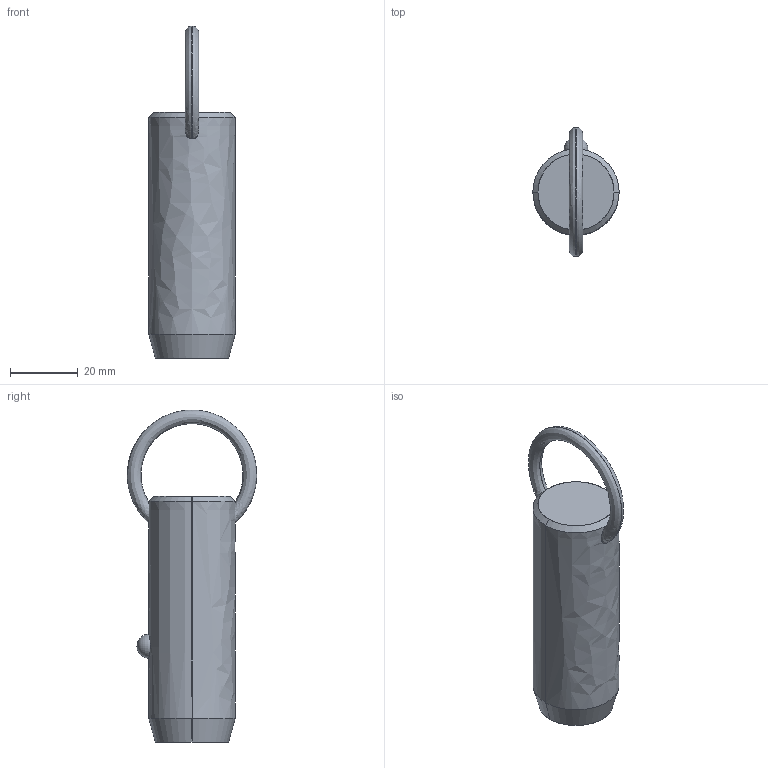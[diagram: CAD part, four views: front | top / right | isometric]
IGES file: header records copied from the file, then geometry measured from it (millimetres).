
Start section: SolidWorks IGES file using analytic representation for surfaces
Global section: file name: C:\Users\liam_\OneDrive\Documents\WORK\Work for WixRoyd\Job Files\J-00019 - Matt Davis CAD Checking\04. CAD Drawings\automotion20190605\P1250.2_v2\P1250.2_v2_20190729_IGES\P1250.100-110.igs; native system: SolidWorks 2017; preprocessor: SolidWorks 2017; author: liam_; date: 190730.173253; units: millimetre
Bounding box: 25.4 x 38.08 x 97.7 mm (x, y, z)
Surface area: 7542.6 mm2 (no closed solid volume)
Topology: 0 solids, 0 shells, 12 faces, 298 edges, 296 vertices
Faces by surface type: revolution 8, bspline 4
